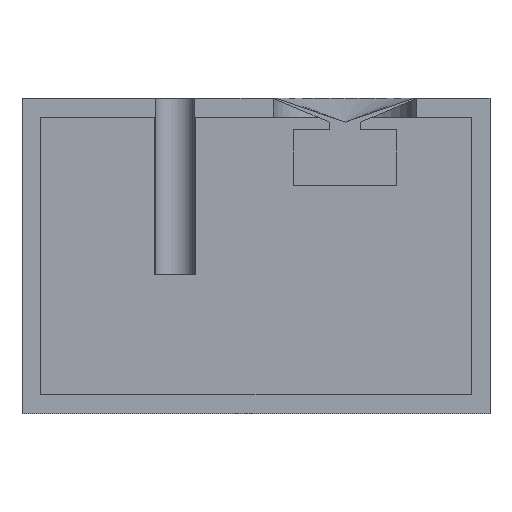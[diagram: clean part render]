
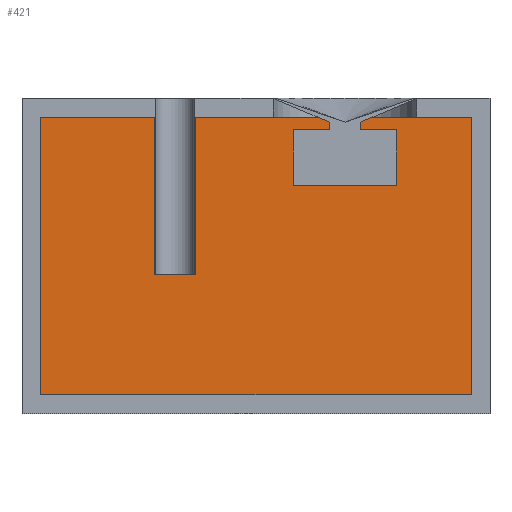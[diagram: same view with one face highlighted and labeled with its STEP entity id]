
A CAD part, left-side view. The second image highlights one B-rep face of the part: STEP entity #421.
In plain terms, the highlighted planar face has unit normal (-1, 0, 0).
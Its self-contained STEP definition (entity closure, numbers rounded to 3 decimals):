
#75=DIRECTION('',(0.,-1.,0.));
#76=VECTOR('',#75,273.);
#77=CARTESIAN_POINT('',(62.,285.,-12.));
#78=LINE('',#77,#76);
#95=DIRECTION('',(0.,0.,-1.));
#96=VECTOR('',#95,176.);
#97=CARTESIAN_POINT('',(62.,12.,-12.));
#98=LINE('',#97,#96);
#107=DIRECTION('',(0.,-1.,0.));
#108=VECTOR('',#107,273.);
#109=CARTESIAN_POINT('',(62.,285.,-188.));
#110=LINE('',#109,#108);
#119=DIRECTION('',(0.,0.,1.));
#120=VECTOR('',#119,176.);
#121=CARTESIAN_POINT('',(62.,285.,-188.));
#122=LINE('',#121,#120);
#183=CARTESIAN_POINT('',(62.,285.,-12.));
#184=CARTESIAN_POINT('',(62.,12.,-12.));
#185=VERTEX_POINT('',#183);
#186=VERTEX_POINT('',#184);
#187=CARTESIAN_POINT('',(62.,285.,-188.));
#188=CARTESIAN_POINT('',(62.,12.,-188.));
#189=VERTEX_POINT('',#187);
#190=VERTEX_POINT('',#188);
#410=CARTESIAN_POINT('',(62.,0.,0.));
#411=DIRECTION('',(1.,0.,0.));
#412=DIRECTION('',(0.,1.,0.));
#413=AXIS2_PLACEMENT_3D('',#410,#411,#412);
#414=PLANE('',#413);
#415=ORIENTED_EDGE('',*,*,#404,.T.);
#416=ORIENTED_EDGE('',*,*,#357,.T.);
#417=ORIENTED_EDGE('',*,*,#377,.T.);
#418=ORIENTED_EDGE('',*,*,#391,.F.);
#419=EDGE_LOOP('',(#415,#416,#417,#418));
#420=FACE_OUTER_BOUND('',#419,.F.);
#421=ADVANCED_FACE('',(#420),#414,.F.);
#357=EDGE_CURVE('',#185,#186,#78,.T.);
#377=EDGE_CURVE('',#186,#190,#98,.T.);
#391=EDGE_CURVE('',#189,#190,#110,.T.);
#404=EDGE_CURVE('',#189,#185,#122,.T.);
